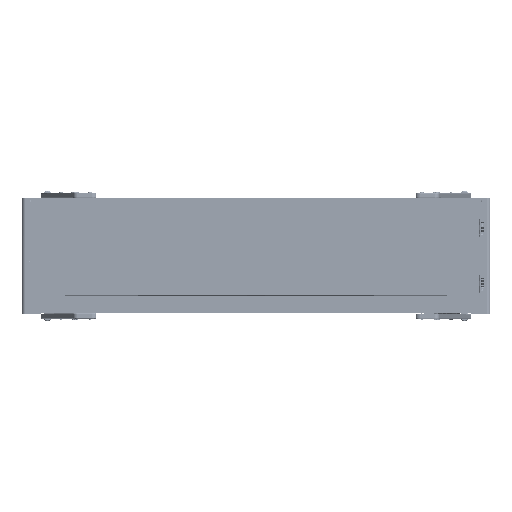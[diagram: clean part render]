
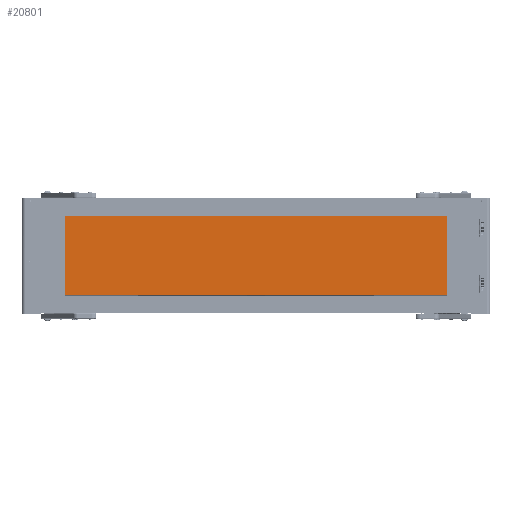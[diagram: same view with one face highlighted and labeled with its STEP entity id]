
A CAD part, top view. The second image highlights one B-rep face of the part: STEP entity #20801.
In plain terms, the highlighted planar face has unit normal (0, 0, 1).
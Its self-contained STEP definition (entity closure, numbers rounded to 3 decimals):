
#258 = VERTEX_POINT ( 'NONE', #43392 ) ;
#382 = ORIENTED_EDGE ( 'NONE', *, *, #86289, .F. ) ;
#1348 = B_SPLINE_CURVE_WITH_KNOTS ( 'NONE', 3,
 ( #15333, #100317, #30560, #91641 ),
 .UNSPECIFIED., .F., .F.,
 ( 4, 4 ),
 ( 0., 1. ),
 .UNSPECIFIED. ) ;
#4012 = CARTESIAN_POINT ( 'NONE',  ( -380.3, 506., 64.99 ) ) ;
#7875 = CARTESIAN_POINT ( 'NONE',  ( -380.3, 506., 64.99 ) ) ;
#13421 = EDGE_LOOP ( 'NONE', ( #382, #84502, #97393, #85421 ) ) ;
#14229 = DIRECTION ( 'NONE',  ( 0., 0., 1. ) ) ;
#15333 = CARTESIAN_POINT ( 'NONE',  ( -2818.7, 2., 64.99 ) ) ;
#16023 = CARTESIAN_POINT ( 'NONE',  ( -380.3, 170., 64.99 ) ) ;
#20801 = ADVANCED_FACE ( 'NONE', ( #29459 ), #59508, .T. ) ;
#22323 = CARTESIAN_POINT ( 'NONE',  ( -1193.1, 2., 64.99 ) ) ;
#29459 = FACE_OUTER_BOUND ( 'NONE', #13421, .T. ) ;
#29957 = CARTESIAN_POINT ( 'NONE',  ( -2005.9, 2., 64.99 ) ) ;
#30560 = CARTESIAN_POINT ( 'NONE',  ( -2818.7, 338., 64.99 ) ) ;
#30759 = CARTESIAN_POINT ( 'NONE',  ( -380.3, 338., 64.99 ) ) ;
#42047 = EDGE_CURVE ( 'NONE', #53333, #92621, #42774, .T. ) ;
#42774 = B_SPLINE_CURVE_WITH_KNOTS ( 'NONE', 3,
 ( #51865, #29957, #22323, #76324 ),
 .UNSPECIFIED., .F., .F.,
 ( 4, 4 ),
 ( 0., 1. ),
 .UNSPECIFIED. ) ;
#43392 = CARTESIAN_POINT ( 'NONE',  ( -380.3, 506., 64.99 ) ) ;
#51865 = CARTESIAN_POINT ( 'NONE',  ( -2818.7, 2., 64.99 ) ) ;
#53333 = VERTEX_POINT ( 'NONE', #82417 ) ;
#53364 = CARTESIAN_POINT ( 'NONE',  ( 0., 0., 64.99 ) ) ;
#54159 = CARTESIAN_POINT ( 'NONE',  ( -380.3, 2., 64.99 ) ) ;
#57952 = CARTESIAN_POINT ( 'NONE',  ( -2818.7, 506., 64.99 ) ) ;
#59508 = PLANE ( 'NONE',  #84351 ) ;
#67339 = EDGE_CURVE ( 'NONE', #53333, #73208, #1348, .T. ) ;
#73208 = VERTEX_POINT ( 'NONE', #81345 ) ;
#76324 = CARTESIAN_POINT ( 'NONE',  ( -380.3, 2., 64.99 ) ) ;
#79132 = B_SPLINE_CURVE_WITH_KNOTS ( 'NONE', 3,
 ( #7875, #30759, #16023, #54159 ),
 .UNSPECIFIED., .F., .F.,
 ( 4, 4 ),
 ( 0., 1. ),
 .UNSPECIFIED. ) ;
#81345 = CARTESIAN_POINT ( 'NONE',  ( -2818.7, 506., 64.99 ) ) ;
#81448 = B_SPLINE_CURVE_WITH_KNOTS ( 'NONE', 1,
 ( #57952, #4012 ),
 .UNSPECIFIED., .F., .F.,
 ( 2, 2 ),
 ( 0., 1. ),
 .UNSPECIFIED. ) ;
#82417 = CARTESIAN_POINT ( 'NONE',  ( -2818.7, 2., 64.99 ) ) ;
#82932 = DIRECTION ( 'NONE',  ( 1., 0., 0. ) ) ;
#84351 = AXIS2_PLACEMENT_3D ( 'NONE', #53364, #14229, #82932 ) ;
#84502 = ORIENTED_EDGE ( 'NONE', *, *, #67339, .F. ) ;
#85421 = ORIENTED_EDGE ( 'NONE', *, *, #90634, .F. ) ;
#86289 = EDGE_CURVE ( 'NONE', #73208, #258, #81448, .T. ) ;
#90634 = EDGE_CURVE ( 'NONE', #258, #92621, #79132, .T. ) ;
#91641 = CARTESIAN_POINT ( 'NONE',  ( -2818.7, 506., 64.99 ) ) ;
#92621 = VERTEX_POINT ( 'NONE', #99030 ) ;
#97393 = ORIENTED_EDGE ( 'NONE', *, *, #42047, .T. ) ;
#99030 = CARTESIAN_POINT ( 'NONE',  ( -380.3, 2., 64.99 ) ) ;
#100317 = CARTESIAN_POINT ( 'NONE',  ( -2818.7, 170., 64.99 ) ) ;
